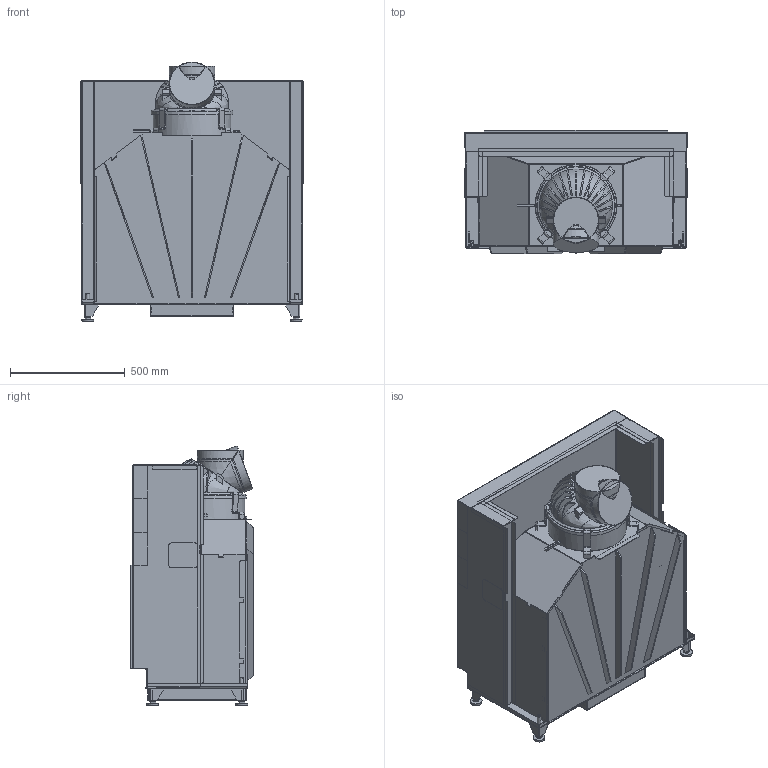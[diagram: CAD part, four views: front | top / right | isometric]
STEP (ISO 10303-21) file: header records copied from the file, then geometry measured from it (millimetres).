
FILE_DESCRIPTION(/* description */ ('','CAx-IF Rec.Pracs.---Representation and Presentation of Product Manufacturing Information (PMI)---3.8---2014-02-18'),/* implementation_level */ '2;1');
FILE_NAME(/* name */ 'C:\ADSK_DM_WS\CAD_3D\03 Geraete\Violino 45x80\Zeichnungen\2015-02696.stp',/* time_stamp */ '2015-10-20T11:38:24+02:00',/* author */ ('cpi'),/* organization */ (''),/* preprocessor_version */ 'ST-DEVELOPER v16.1',/* originating_system */ 'Autodesk Inventor 2016',/* authorisation */ '');
FILE_SCHEMA (('AP242_MANAGED_MODEL_BASED_3D_ENGINEERING_MIM_LF { 1 0 10303 442 1 1 4 }'));
Products named in the file (5): 2015-02692; 2015-02688; 2015-02685; 2015-02690; 2015-02693
Assembly tree (4 placements, depth 2):
  2015-02693
    2015-02692
    2015-02688
    2015-02690
    2015-02685
Bounding box: 966 x 534.5 x 1130.37 mm (x, y, z)
Volume: 71593314.1 mm3; surface area: 14621568.6 mm2
Topology: 16 solids, 19 shells, 3131 faces, 8400 edges, 5217 vertices
Faces by surface type: plane 1956, cylinder 965, bspline 110, cone 96, torus 3, sphere 1
Full cylindrical faces by diameter (mm): 2.6 x8, 4.8 x1, 5.6 x1, 6 x2, 7 x2, 8 x8, 10 x7, 16 x12, 30 x4, 333 x1, 339 x1
Entity records: 101854 total; most frequent: CARTESIAN_POINT 21473, ORIENTED_EDGE 16688, DIRECTION 15830, EDGE_CURVE 8303, LINE 5678, VECTOR 5678, VERTEX_POINT 5190, AXIS2_PLACEMENT_3D 5076
